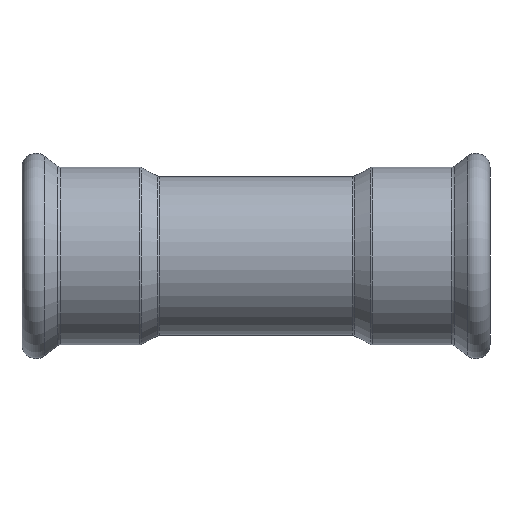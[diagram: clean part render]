
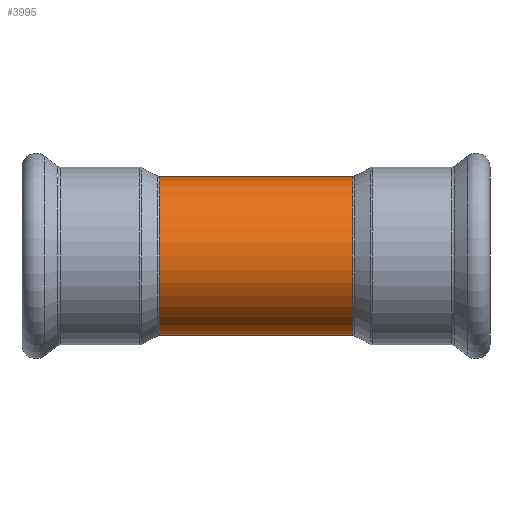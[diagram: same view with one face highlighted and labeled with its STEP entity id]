
A CAD part, front view. The second image highlights one B-rep face of the part: STEP entity #3995.
In plain terms, the highlighted cylindrical face has radius 17.15 mm (diameter 34.3 mm), a partial arc.
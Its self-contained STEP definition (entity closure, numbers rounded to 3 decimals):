
#65 = CIRCLE ( 'NONE', #2745, 17.15 ) ;
#201 = CARTESIAN_POINT ( 'NONE',  ( 20.877, 0., -17.15 ) ) ;
#215 = VERTEX_POINT ( 'NONE', #2466 ) ;
#219 = CARTESIAN_POINT ( 'NONE',  ( 0., 0., -17.15 ) ) ;
#314 = EDGE_CURVE ( 'NONE', #3641, #1269, #3140, .T. ) ;
#325 = CARTESIAN_POINT ( 'NONE',  ( 20.877, 0., 0. ) ) ;
#645 = DIRECTION ( 'NONE',  ( 0., 0., 1. ) ) ;
#696 = VECTOR ( 'NONE', #1514, 1000. ) ;
#708 = VECTOR ( 'NONE', #4213, 1000. ) ;
#1032 = EDGE_CURVE ( 'NONE', #215, #3421, #65, .T. ) ;
#1071 = ORIENTED_EDGE ( 'NONE', *, *, #3755, .F. ) ;
#1170 = CARTESIAN_POINT ( 'NONE',  ( 20.877, 0., 17.15 ) ) ;
#1210 = FACE_OUTER_BOUND ( 'NONE', #3164, .T. ) ;
#1269 = VERTEX_POINT ( 'NONE', #1170 ) ;
#1273 = AXIS2_PLACEMENT_3D ( 'NONE', #325, #3972, #645 ) ;
#1345 = EDGE_CURVE ( 'NONE', #1269, #215, #1857, .T. ) ;
#1446 = CARTESIAN_POINT ( 'NONE',  ( 0., 0., 17.15 ) ) ;
#1514 = DIRECTION ( 'NONE',  ( -1., 0., 0. ) ) ;
#1533 = CYLINDRICAL_SURFACE ( 'NONE', #2770, 17.15 ) ;
#1575 = CARTESIAN_POINT ( 'NONE',  ( -20.877, 0., 0. ) ) ;
#1591 = CARTESIAN_POINT ( 'NONE',  ( -20.877, 0., -17.15 ) ) ;
#1722 = ORIENTED_EDGE ( 'NONE', *, *, #1345, .T. ) ;
#1857 = LINE ( 'NONE', #1446, #696 ) ;
#2124 = ORIENTED_EDGE ( 'NONE', *, *, #314, .T. ) ;
#2466 = CARTESIAN_POINT ( 'NONE',  ( -20.877, 0., 17.15 ) ) ;
#2572 = DIRECTION ( 'NONE',  ( 0., 0., 1. ) ) ;
#2745 = AXIS2_PLACEMENT_3D ( 'NONE', #1575, #3905, #2572 ) ;
#2770 = AXIS2_PLACEMENT_3D ( 'NONE', #3221, #2865, #3826 ) ;
#2844 = LINE ( 'NONE', #219, #708 ) ;
#2865 = DIRECTION ( 'NONE',  ( -1., 0., 0. ) ) ;
#3140 = CIRCLE ( 'NONE', #1273, 17.15 ) ;
#3164 = EDGE_LOOP ( 'NONE', ( #1071, #2124, #1722, #3381 ) ) ;
#3221 = CARTESIAN_POINT ( 'NONE',  ( 0., 0., 0. ) ) ;
#3381 = ORIENTED_EDGE ( 'NONE', *, *, #1032, .T. ) ;
#3421 = VERTEX_POINT ( 'NONE', #1591 ) ;
#3641 = VERTEX_POINT ( 'NONE', #201 ) ;
#3755 = EDGE_CURVE ( 'NONE', #3641, #3421, #2844, .T. ) ;
#3826 = DIRECTION ( 'NONE',  ( 0., 0., 1. ) ) ;
#3905 = DIRECTION ( 'NONE',  ( 1., 0., 0. ) ) ;
#3972 = DIRECTION ( 'NONE',  ( -1., 0., 0. ) ) ;
#3995 = ADVANCED_FACE ( 'NONE', ( #1210 ), #1533, .T. ) ;
#4213 = DIRECTION ( 'NONE',  ( -1., 0., 0. ) ) ;
